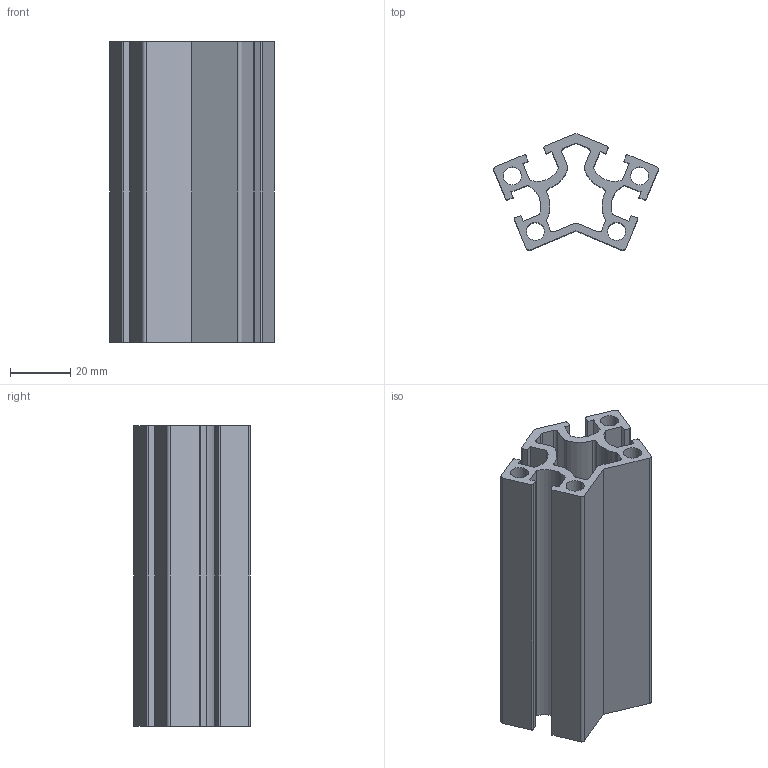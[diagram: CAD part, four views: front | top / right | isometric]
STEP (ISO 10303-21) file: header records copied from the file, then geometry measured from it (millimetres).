
FILE_DESCRIPTION (( 'STEP AP203' ), '1' );
FILE_NAME ('WS3030135-6.STEP', '2024-02-17T06:49:45', ( '' ), ( '' ), 'SwSTEP 2.0', 'SolidWorks 2022', '' );
FILE_SCHEMA (( 'CONFIG_CONTROL_DESIGN' ));
Length unit declared in the file: millimetre
Products named in the file (1): WS3030135-6
Bounding box: 54.77 x 38.88 x 100 mm (x, y, z)
Volume: 57460.3 mm3; surface area: 43281.6 mm2
Topology: 1 solids, 1 shells, 93 faces, 273 edges, 182 vertices
Faces by surface type: cylinder 49, plane 44
Entity records: 3222 total; most frequent: DIRECTION 559, CARTESIAN_POINT 549, ORIENTED_EDGE 546, EDGE_CURVE 273, AXIS2_PLACEMENT_3D 192, VERTEX_POINT 182, LINE 175, VECTOR 175
